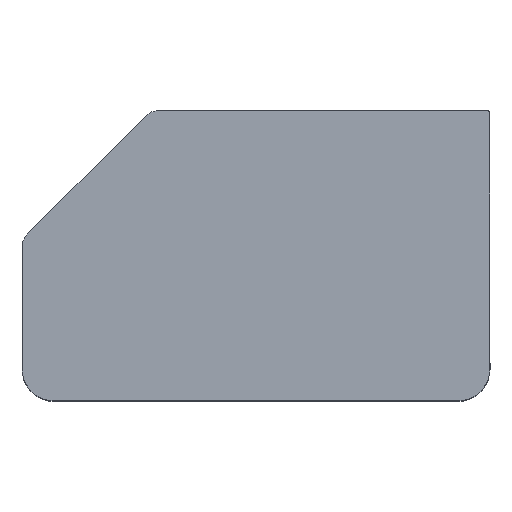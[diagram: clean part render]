
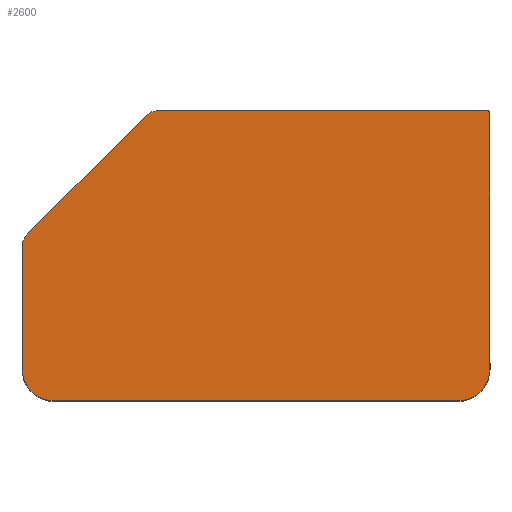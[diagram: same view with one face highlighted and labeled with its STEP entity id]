
A CAD part, top view. The second image highlights one B-rep face of the part: STEP entity #2600.
In plain terms, the highlighted planar face has unit normal (0, 0, 1) as drawn and (0, 0, -1) by its records, which use the part's own axes.
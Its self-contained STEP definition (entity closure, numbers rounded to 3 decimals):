
#26 = DIRECTION ( 'NONE',  ( 1., 0., 0. ) ) ;
#43 = LINE ( 'NONE', #2748, #335 ) ;
#232 = VERTEX_POINT ( 'NONE', #2617 ) ;
#254 = CARTESIAN_POINT ( 'NONE',  ( 33.25, -21.243, 0. ) ) ;
#262 = CARTESIAN_POINT ( 'NONE',  ( -36.25, 0., 0. ) ) ;
#272 = ORIENTED_EDGE ( 'NONE', *, *, #3179, .F. ) ;
#289 = ORIENTED_EDGE ( 'NONE', *, *, #2432, .T. ) ;
#291 = PLANE ( 'NONE',  #1192 ) ;
#307 = CARTESIAN_POINT ( 'NONE',  ( 31.25, -40., 0. ) ) ;
#328 = ORIENTED_EDGE ( 'NONE', *, *, #842, .F. ) ;
#335 = VECTOR ( 'NONE', #26, 1000. ) ;
#374 = VERTEX_POINT ( 'NONE', #3455 ) ;
#443 = VECTOR ( 'NONE', #2688, 1000. ) ;
#519 = CARTESIAN_POINT ( 'NONE',  ( -36.25, 0., 0. ) ) ;
#556 = DIRECTION ( 'NONE',  ( 0., -1., 0. ) ) ;
#559 = AXIS2_PLACEMENT_3D ( 'NONE', #254, #1092, #1358 ) ;
#563 = CARTESIAN_POINT ( 'NONE',  ( 16.25, 0., 0. ) ) ;
#585 = ORIENTED_EDGE ( 'NONE', *, *, #1267, .F. ) ;
#687 = DIRECTION ( 'NONE',  ( 0., 0., -1. ) ) ;
#714 = ORIENTED_EDGE ( 'NONE', *, *, #2264, .T. ) ;
#733 = CARTESIAN_POINT ( 'NONE',  ( 17.129, -0.879, 0. ) ) ;
#768 = DIRECTION ( 'NONE',  ( 0., 0., 1. ) ) ;
#842 = EDGE_CURVE ( 'NONE', #2220, #232, #43, .T. ) ;
#934 = CARTESIAN_POINT ( 'NONE',  ( 15.007, 0., 0. ) ) ;
#1061 = DIRECTION ( 'NONE',  ( 0.707, -0.707, 0. ) ) ;
#1090 = DIRECTION ( 'NONE',  ( 0., 0., -1. ) ) ;
#1092 = DIRECTION ( 'NONE',  ( 0., 0., -1. ) ) ;
#1159 = DIRECTION ( 'NONE',  ( 0., 0., 1. ) ) ;
#1192 = AXIS2_PLACEMENT_3D ( 'NONE', #307, #768, #2440 ) ;
#1200 = ORIENTED_EDGE ( 'NONE', *, *, #3222, .F. ) ;
#1204 = CARTESIAN_POINT ( 'NONE',  ( -36.25, -40., 0. ) ) ;
#1242 = CARTESIAN_POINT ( 'NONE',  ( -35.75, -0.5, 0. ) ) ;
#1267 = EDGE_CURVE ( 'NONE', #3305, #374, #2727, .T. ) ;
#1297 = CIRCLE ( 'NONE', #3165, 5. ) ;
#1358 = DIRECTION ( 'NONE',  ( 1., 0., 0. ) ) ;
#1375 = FACE_OUTER_BOUND ( 'NONE', #3287, .T. ) ;
#1522 = AXIS2_PLACEMENT_3D ( 'NONE', #1658, #1090, #2400 ) ;
#1571 = ORIENTED_EDGE ( 'NONE', *, *, #2592, .T. ) ;
#1621 = CARTESIAN_POINT ( 'NONE',  ( 36.25, -40., 0. ) ) ;
#1630 = CIRCLE ( 'NONE', #1522, 3. ) ;
#1640 = VECTOR ( 'NONE', #556, 1000. ) ;
#1658 = CARTESIAN_POINT ( 'NONE',  ( 15.007, -3., 0. ) ) ;
#1665 = LINE ( 'NONE', #563, #1694 ) ;
#1694 = VECTOR ( 'NONE', #1061, 1000. ) ;
#1857 = AXIS2_PLACEMENT_3D ( 'NONE', #3286, #1159, #2478 ) ;
#1862 = CARTESIAN_POINT ( 'NONE',  ( -31.25, -40., 0. ) ) ;
#1865 = VERTEX_POINT ( 'NONE', #2817 ) ;
#1885 = LINE ( 'NONE', #519, #1640 ) ;
#1897 = ORIENTED_EDGE ( 'NONE', *, *, #2649, .F. ) ;
#1979 = AXIS2_PLACEMENT_3D ( 'NONE', #1242, #687, #2640 ) ;
#1995 = EDGE_CURVE ( 'NONE', #2726, #2220, #1297, .T. ) ;
#2134 = DIRECTION ( 'NONE',  ( 1., 0., 0. ) ) ;
#2138 = LINE ( 'NONE', #1621, #443 ) ;
#2198 = VERTEX_POINT ( 'NONE', #3089 ) ;
#2220 = VERTEX_POINT ( 'NONE', #3272 ) ;
#2225 = DIRECTION ( 'NONE',  ( -1., 0., 0. ) ) ;
#2251 = CIRCLE ( 'NONE', #559, 3. ) ;
#2264 = EDGE_CURVE ( 'NONE', #3314, #2462, #1665, .T. ) ;
#2324 = ORIENTED_EDGE ( 'NONE', *, *, #1995, .F. ) ;
#2396 = DIRECTION ( 'NONE',  ( 0., 0., 1. ) ) ;
#2400 = DIRECTION ( 'NONE',  ( 1., 0., 0. ) ) ;
#2414 = CIRCLE ( 'NONE', #1979, 0.5 ) ;
#2432 = EDGE_CURVE ( 'NONE', #3152, #374, #2414, .T. ) ;
#2440 = DIRECTION ( 'NONE',  ( 1., 0., 0. ) ) ;
#2462 = VERTEX_POINT ( 'NONE', #2628 ) ;
#2478 = DIRECTION ( 'NONE',  ( 1., 0., 0. ) ) ;
#2592 = EDGE_CURVE ( 'NONE', #2462, #1865, #2251, .T. ) ;
#2600 = ADVANCED_FACE ( 'NONE', ( #1375 ), #291, .F. ) ;
#2617 = CARTESIAN_POINT ( 'NONE',  ( 31.25, -45., 0. ) ) ;
#2628 = CARTESIAN_POINT ( 'NONE',  ( 35.371, -19.121, 0. ) ) ;
#2640 = DIRECTION ( 'NONE',  ( 1., 0., 0. ) ) ;
#2649 = EDGE_CURVE ( 'NONE', #3152, #2726, #1885, .T. ) ;
#2688 = DIRECTION ( 'NONE',  ( 0., 1., 0. ) ) ;
#2698 = CIRCLE ( 'NONE', #1857, 5. ) ;
#2726 = VERTEX_POINT ( 'NONE', #1204 ) ;
#2727 = LINE ( 'NONE', #262, #3116 ) ;
#2748 = CARTESIAN_POINT ( 'NONE',  ( 31.25, -45., 0. ) ) ;
#2817 = CARTESIAN_POINT ( 'NONE',  ( 36.25, -21.243, 0. ) ) ;
#2942 = CARTESIAN_POINT ( 'NONE',  ( -36.25, -0.5, 0. ) ) ;
#3089 = CARTESIAN_POINT ( 'NONE',  ( 36.25, -40., 0. ) ) ;
#3116 = VECTOR ( 'NONE', #2225, 1000. ) ;
#3152 = VERTEX_POINT ( 'NONE', #2942 ) ;
#3159 = EDGE_CURVE ( 'NONE', #3305, #3314, #1630, .T. ) ;
#3165 = AXIS2_PLACEMENT_3D ( 'NONE', #1862, #2396, #2134 ) ;
#3179 = EDGE_CURVE ( 'NONE', #2198, #1865, #2138, .T. ) ;
#3222 = EDGE_CURVE ( 'NONE', #232, #2198, #2698, .T. ) ;
#3260 = ORIENTED_EDGE ( 'NONE', *, *, #3159, .T. ) ;
#3272 = CARTESIAN_POINT ( 'NONE',  ( -31.25, -45., 0. ) ) ;
#3286 = CARTESIAN_POINT ( 'NONE',  ( 31.25, -40., 0. ) ) ;
#3287 = EDGE_LOOP ( 'NONE', ( #1897, #289, #585, #3260, #714, #1571, #272, #1200, #328, #2324 ) ) ;
#3305 = VERTEX_POINT ( 'NONE', #934 ) ;
#3314 = VERTEX_POINT ( 'NONE', #733 ) ;
#3455 = CARTESIAN_POINT ( 'NONE',  ( -35.75, 0., 0. ) ) ;
